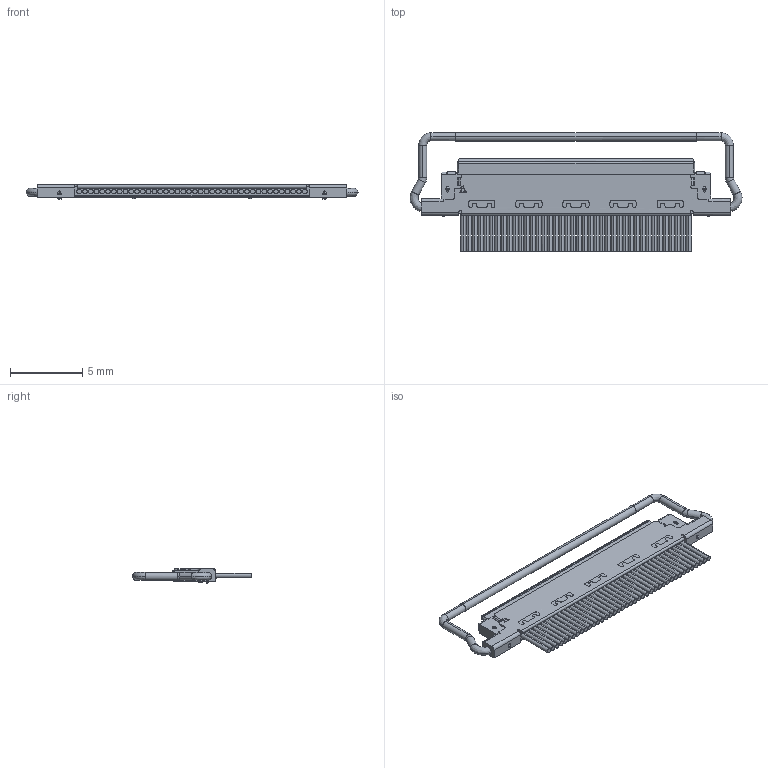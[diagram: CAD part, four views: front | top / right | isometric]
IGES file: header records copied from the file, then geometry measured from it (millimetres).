
Start section: SolidWorks IGES file using analytic representation for surfaces
Global section: file name: C:\Users\04446\Desktop\20633-x40T-01SC PLUG CABLE ASS'Y IGES R3R4R1 ALL.IGS; native system: SolidWorks 2012; preprocessor: SolidWorks 2012; author: 04446; date: 150402.230854; units: millimetre
Bounding box: 22.95 x 8.21 x 1 mm (x, y, z)
Surface area: 353.2 mm2 (no closed solid volume)
Topology: 0 solids, 0 shells, 392 faces, 3822 edges, 3807 vertices
Faces by surface type: bspline 211, revolution 181
